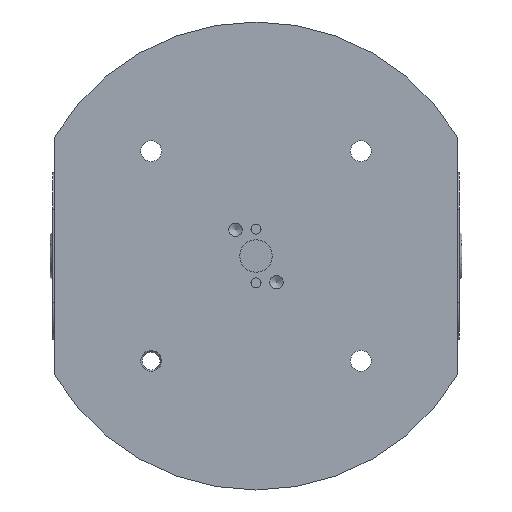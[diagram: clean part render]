
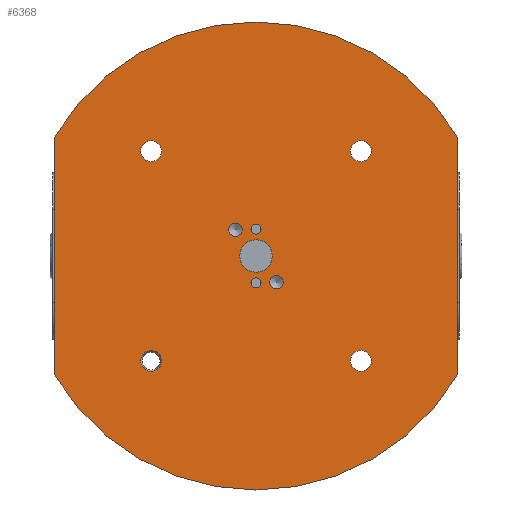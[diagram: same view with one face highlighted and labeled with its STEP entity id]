
A CAD part, front view. The second image highlights one B-rep face of the part: STEP entity #6368.
In plain terms, the highlighted planar face has unit normal (0, -1, 0).
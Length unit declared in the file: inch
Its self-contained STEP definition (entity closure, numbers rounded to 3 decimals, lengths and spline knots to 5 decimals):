
#25 = FACE_BOUND ( 'NONE', #201, .T. ) ;
#70 = FACE_BOUND ( 'NONE', #1109, .T. ) ;
#88 = DIRECTION ( 'NONE',  ( 0., -1., 0. ) ) ;
#92 = ORIENTED_EDGE ( 'NONE', *, *, #3030, .F. ) ;
#100 = LINE ( 'NONE', #1970, #6742 ) ;
#112 = CIRCLE ( 'NONE', #4548, 0.04921 ) ;
#201 = EDGE_LOOP ( 'NONE', ( #6340 ) ) ;
#210 = CARTESIAN_POINT ( 'NONE',  ( 0., 0., 0. ) ) ;
#347 = CARTESIAN_POINT ( 'NONE',  ( 0., 0., 0.31171 ) ) ;
#367 = CARTESIAN_POINT ( 'NONE',  ( -0.2, 0., 0.19121 ) ) ;
#516 = EDGE_LOOP ( 'NONE', ( #581 ) ) ;
#517 = DIRECTION ( 'NONE',  ( 0., 0., -1. ) ) ;
#548 = AXIS2_PLACEMENT_3D ( 'NONE', #1887, #698, #5524 ) ;
#581 = ORIENTED_EDGE ( 'NONE', *, *, #7211, .F. ) ;
#584 = CARTESIAN_POINT ( 'NONE',  ( 1.02362, 0., -1.02362 ) ) ;
#607 = DIRECTION ( 'NONE',  ( 0., 0., 1. ) ) ;
#612 = EDGE_LOOP ( 'NONE', ( #6846 ) ) ;
#684 = CIRCLE ( 'NONE', #2852, 0.102 ) ;
#698 = DIRECTION ( 'NONE',  ( 0., 1., 0. ) ) ;
#877 = EDGE_CURVE ( 'NONE', #6375, #6375, #112, .T. ) ;
#880 = CARTESIAN_POINT ( 'NONE',  ( -1.02362, 0., -0.92162 ) ) ;
#920 = CARTESIAN_POINT ( 'NONE',  ( 1.02362, 0., -0.92162 ) ) ;
#937 = DIRECTION ( 'NONE',  ( 0., 1., 0. ) ) ;
#1109 = EDGE_LOOP ( 'NONE', ( #3789 ) ) ;
#1166 = CIRCLE ( 'NONE', #5215, 0.06496 ) ;
#1284 = CIRCLE ( 'NONE', #3583, 0.102 ) ;
#1299 = CIRCLE ( 'NONE', #5091, 2.28346 ) ;
#1331 = FACE_BOUND ( 'NONE', #6182, .T. ) ;
#1402 = DIRECTION ( 'NONE',  ( 0., -1., 0. ) ) ;
#1502 = EDGE_LOOP ( 'NONE', ( #3469 ) ) ;
#1604 = VERTEX_POINT ( 'NONE', #367 ) ;
#1677 = CARTESIAN_POINT ( 'NONE',  ( 0.2, 0., -0.32113 ) ) ;
#1704 = EDGE_CURVE ( 'NONE', #5518, #5518, #6100, .T. ) ;
#1748 = CARTESIAN_POINT ( 'NONE',  ( 1.9685, 0., -1.15724 ) ) ;
#1887 = CARTESIAN_POINT ( 'NONE',  ( 0., 0., 0. ) ) ;
#1929 = FACE_BOUND ( 'NONE', #1502, .T. ) ;
#1966 = CARTESIAN_POINT ( 'NONE',  ( -1.9685, 0., -1.15724 ) ) ;
#1970 = CARTESIAN_POINT ( 'NONE',  ( 1.9685, 0., -1.25 ) ) ;
#2015 = ORIENTED_EDGE ( 'NONE', *, *, #7024, .T. ) ;
#2019 = ORIENTED_EDGE ( 'NONE', *, *, #4167, .F. ) ;
#2026 = ORIENTED_EDGE ( 'NONE', *, *, #4121, .T. ) ;
#2047 = EDGE_CURVE ( 'NONE', #4355, #4355, #5973, .T. ) ;
#2073 = AXIS2_PLACEMENT_3D ( 'NONE', #5953, #3496, #5882 ) ;
#2085 = CIRCLE ( 'NONE', #6774, 0.06496 ) ;
#2156 = DIRECTION ( 'NONE',  ( 0., 1., 0. ) ) ;
#2214 = DIRECTION ( 'NONE',  ( 0., 0., 1. ) ) ;
#2230 = ORIENTED_EDGE ( 'NONE', *, *, #2663, .T. ) ;
#2257 = LINE ( 'NONE', #7724, #5479 ) ;
#2345 = VERTEX_POINT ( 'NONE', #6137 ) ;
#2388 = EDGE_CURVE ( 'NONE', #2558, #2558, #5096, .T. ) ;
#2524 = PLANE ( 'NONE',  #548 ) ;
#2558 = VERTEX_POINT ( 'NONE', #7303 ) ;
#2562 = CIRCLE ( 'NONE', #3328, 0.102 ) ;
#2646 = ORIENTED_EDGE ( 'NONE', *, *, #3915, .T. ) ;
#2663 = EDGE_CURVE ( 'NONE', #2345, #6815, #2257, .T. ) ;
#2779 = DIRECTION ( 'NONE',  ( 0., 0., -1. ) ) ;
#2807 = CARTESIAN_POINT ( 'NONE',  ( 0., 0., 0.2625 ) ) ;
#2835 = DIRECTION ( 'NONE',  ( 0., 1., 0. ) ) ;
#2845 = CARTESIAN_POINT ( 'NONE',  ( 1.02362, 0., 1.02362 ) ) ;
#2852 = AXIS2_PLACEMENT_3D ( 'NONE', #2845, #2156, #6548 ) ;
#3003 = CARTESIAN_POINT ( 'NONE',  ( 0., 0., 0. ) ) ;
#3006 = FACE_OUTER_BOUND ( 'NONE', #5380, .T. ) ;
#3013 = DIRECTION ( 'NONE',  ( 0., 1., 0. ) ) ;
#3030 = EDGE_CURVE ( 'NONE', #4260, #6815, #1299, .T. ) ;
#3195 = DIRECTION ( 'NONE',  ( 0., 0., 1. ) ) ;
#3316 = VERTEX_POINT ( 'NONE', #920 ) ;
#3328 = AXIS2_PLACEMENT_3D ( 'NONE', #584, #3013, #3376 ) ;
#3376 = DIRECTION ( 'NONE',  ( 0., 0., 1. ) ) ;
#3469 = ORIENTED_EDGE ( 'NONE', *, *, #5702, .F. ) ;
#3484 = VERTEX_POINT ( 'NONE', #5905 ) ;
#3496 = DIRECTION ( 'NONE',  ( 0., 1., 0. ) ) ;
#3568 = DIRECTION ( 'NONE',  ( 0., 0., -1. ) ) ;
#3583 = AXIS2_PLACEMENT_3D ( 'NONE', #6367, #937, #6285 ) ;
#3632 = CARTESIAN_POINT ( 'NONE',  ( 0.2, 0., -0.25617 ) ) ;
#3683 = DIRECTION ( 'NONE',  ( 0., 0., 1. ) ) ;
#3731 = FACE_BOUND ( 'NONE', #6047, .T. ) ;
#3789 = ORIENTED_EDGE ( 'NONE', *, *, #2388, .F. ) ;
#3883 = AXIS2_PLACEMENT_3D ( 'NONE', #3003, #6684, #3683 ) ;
#3915 = EDGE_CURVE ( 'NONE', #6275, #6275, #1284, .T. ) ;
#4121 = EDGE_CURVE ( 'NONE', #4260, #7061, #100, .T. ) ;
#4167 = EDGE_CURVE ( 'NONE', #2345, #7061, #4500, .T. ) ;
#4182 = ORIENTED_EDGE ( 'NONE', *, *, #4669, .T. ) ;
#4234 = CARTESIAN_POINT ( 'NONE',  ( -1.02362, 0., 1.12562 ) ) ;
#4260 = VERTEX_POINT ( 'NONE', #1748 ) ;
#4355 = VERTEX_POINT ( 'NONE', #4234 ) ;
#4362 = FACE_BOUND ( 'NONE', #6710, .T. ) ;
#4500 = CIRCLE ( 'NONE', #3883, 2.28346 ) ;
#4524 = CARTESIAN_POINT ( 'NONE',  ( 0., 0., 0. ) ) ;
#4548 = AXIS2_PLACEMENT_3D ( 'NONE', #2807, #7634, #2214 ) ;
#4669 = EDGE_CURVE ( 'NONE', #3316, #3316, #2562, .T. ) ;
#4857 = FACE_BOUND ( 'NONE', #516, .T. ) ;
#5091 = AXIS2_PLACEMENT_3D ( 'NONE', #210, #5633, #3195 ) ;
#5096 = CIRCLE ( 'NONE', #7383, 0.158 ) ;
#5109 = EDGE_LOOP ( 'NONE', ( #5330 ) ) ;
#5215 = AXIS2_PLACEMENT_3D ( 'NONE', #7384, #1402, #5700 ) ;
#5232 = DIRECTION ( 'NONE',  ( 0., 0., 1. ) ) ;
#5330 = ORIENTED_EDGE ( 'NONE', *, *, #877, .T. ) ;
#5380 = EDGE_LOOP ( 'NONE', ( #92, #2026, #2019, #2230 ) ) ;
#5479 = VECTOR ( 'NONE', #3568, 39.37008 ) ;
#5518 = VERTEX_POINT ( 'NONE', #6156 ) ;
#5524 = DIRECTION ( 'NONE',  ( 0., 0., 1. ) ) ;
#5633 = DIRECTION ( 'NONE',  ( 0., 1., 0. ) ) ;
#5700 = DIRECTION ( 'NONE',  ( 0., 0., -1. ) ) ;
#5702 = EDGE_CURVE ( 'NONE', #1604, #1604, #1166, .T. ) ;
#5771 = DIRECTION ( 'NONE',  ( 0., -1., 0. ) ) ;
#5882 = DIRECTION ( 'NONE',  ( 0., 0., 1. ) ) ;
#5905 = CARTESIAN_POINT ( 'NONE',  ( 1.02362, 0., 1.12562 ) ) ;
#5953 = CARTESIAN_POINT ( 'NONE',  ( 0., 0., -0.2625 ) ) ;
#5973 = CIRCLE ( 'NONE', #7633, 0.102 ) ;
#6047 = EDGE_LOOP ( 'NONE', ( #2015 ) ) ;
#6100 = CIRCLE ( 'NONE', #2073, 0.04921 ) ;
#6124 = FACE_BOUND ( 'NONE', #5109, .T. ) ;
#6137 = CARTESIAN_POINT ( 'NONE',  ( -1.9685, 0., 1.15724 ) ) ;
#6156 = CARTESIAN_POINT ( 'NONE',  ( 0., 0., -0.21329 ) ) ;
#6182 = EDGE_LOOP ( 'NONE', ( #4182 ) ) ;
#6275 = VERTEX_POINT ( 'NONE', #880 ) ;
#6285 = DIRECTION ( 'NONE',  ( 0., 0., 1. ) ) ;
#6340 = ORIENTED_EDGE ( 'NONE', *, *, #2047, .T. ) ;
#6367 = CARTESIAN_POINT ( 'NONE',  ( -1.02362, 0., -1.02362 ) ) ;
#6368 = ADVANCED_FACE ( 'NONE', ( #1331, #3731, #25, #4362, #1929, #4857, #70, #7275, #6124, #3006 ), #2524, .F. ) ;
#6375 = VERTEX_POINT ( 'NONE', #347 ) ;
#6548 = DIRECTION ( 'NONE',  ( 0., 0., 1. ) ) ;
#6549 = VERTEX_POINT ( 'NONE', #1677 ) ;
#6684 = DIRECTION ( 'NONE',  ( 0., 1., 0. ) ) ;
#6710 = EDGE_LOOP ( 'NONE', ( #2646 ) ) ;
#6742 = VECTOR ( 'NONE', #607, 39.37008 ) ;
#6774 = AXIS2_PLACEMENT_3D ( 'NONE', #3632, #88, #517 ) ;
#6815 = VERTEX_POINT ( 'NONE', #1966 ) ;
#6846 = ORIENTED_EDGE ( 'NONE', *, *, #1704, .T. ) ;
#6946 = CARTESIAN_POINT ( 'NONE',  ( -1.02362, 0., 1.02362 ) ) ;
#7024 = EDGE_CURVE ( 'NONE', #3484, #3484, #684, .T. ) ;
#7061 = VERTEX_POINT ( 'NONE', #7618 ) ;
#7211 = EDGE_CURVE ( 'NONE', #6549, #6549, #2085, .T. ) ;
#7275 = FACE_BOUND ( 'NONE', #612, .T. ) ;
#7303 = CARTESIAN_POINT ( 'NONE',  ( 0., 0., -0.158 ) ) ;
#7383 = AXIS2_PLACEMENT_3D ( 'NONE', #4524, #5771, #2779 ) ;
#7384 = CARTESIAN_POINT ( 'NONE',  ( -0.2, 0., 0.25617 ) ) ;
#7618 = CARTESIAN_POINT ( 'NONE',  ( 1.9685, 0., 1.15724 ) ) ;
#7633 = AXIS2_PLACEMENT_3D ( 'NONE', #6946, #2835, #5232 ) ;
#7634 = DIRECTION ( 'NONE',  ( 0., 1., 0. ) ) ;
#7724 = CARTESIAN_POINT ( 'NONE',  ( -1.9685, 0., -1.25 ) ) ;
